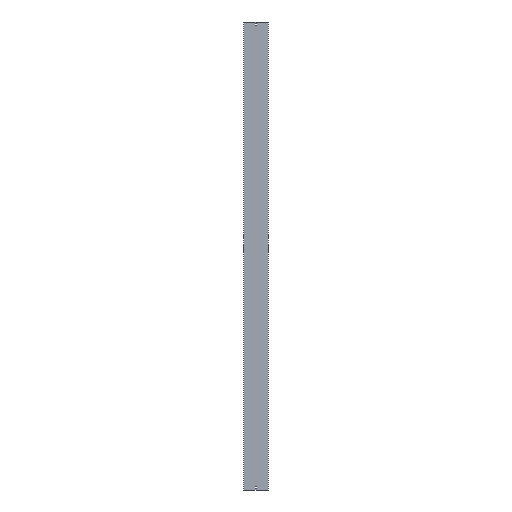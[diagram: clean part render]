
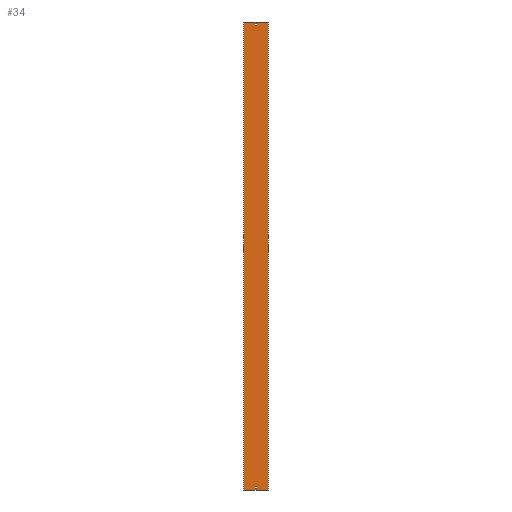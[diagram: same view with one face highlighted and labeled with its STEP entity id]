
A CAD part, front view. The second image highlights one B-rep face of the part: STEP entity #34.
In plain terms, the highlighted planar face has unit normal (0, -1, 0).
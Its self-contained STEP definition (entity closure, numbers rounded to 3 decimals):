
#7 = ORIENTED_EDGE ( 'NONE', *, *, #450, .T. ) ;
#13 = VERTEX_POINT ( 'NONE', #108 ) ;
#29 = EDGE_CURVE ( 'NONE', #234, #229, #375, .T. ) ;
#30 = DIRECTION ( 'NONE',  ( -1., 0., 0. ) ) ;
#32 = CARTESIAN_POINT ( 'NONE',  ( -77., -1.5, -1500. ) ) ;
#34 = ADVANCED_FACE ( 'NONE', ( #68, #255, #115 ), #250, .T. ) ;
#46 = AXIS2_PLACEMENT_3D ( 'NONE', #112, #336, #564 ) ;
#56 = EDGE_LOOP ( 'NONE', ( #449, #420, #409, #194 ) ) ;
#68 = FACE_BOUND ( 'NONE', #56, .T. ) ;
#69 = CARTESIAN_POINT ( 'NONE',  ( -3.25, -1.5, 1500. ) ) ;
#72 = LINE ( 'NONE', #359, #191 ) ;
#74 = CARTESIAN_POINT ( 'NONE',  ( 3.25, -1.5, 1488. ) ) ;
#78 = CARTESIAN_POINT ( 'NONE',  ( 3.25, -1.5, -1479. ) ) ;
#82 = VERTEX_POINT ( 'NONE', #185 ) ;
#86 = CARTESIAN_POINT ( 'NONE',  ( -78.5, -1.5, -1500. ) ) ;
#91 = EDGE_CURVE ( 'NONE', #229, #138, #313, .T. ) ;
#108 = CARTESIAN_POINT ( 'NONE',  ( -3.25, -1.5, -1479. ) ) ;
#112 = CARTESIAN_POINT ( 'NONE',  ( -78.5, -1.5, 1500. ) ) ;
#115 = FACE_BOUND ( 'NONE', #277, .T. ) ;
#119 = EDGE_CURVE ( 'NONE', #234, #580, #341, .T. ) ;
#123 = CARTESIAN_POINT ( 'NONE',  ( 77., -1.5, 1500. ) ) ;
#130 = VERTEX_POINT ( 'NONE', #74 ) ;
#138 = VERTEX_POINT ( 'NONE', #32 ) ;
#150 = VECTOR ( 'NONE', #311, 1000. ) ;
#154 = VECTOR ( 'NONE', #369, 1000. ) ;
#155 = VERTEX_POINT ( 'NONE', #526 ) ;
#158 = CARTESIAN_POINT ( 'NONE',  ( 77., -1.5, -1500. ) ) ;
#168 = LINE ( 'NONE', #215, #181 ) ;
#175 = EDGE_CURVE ( 'NONE', #155, #82, #288, .T. ) ;
#181 = VECTOR ( 'NONE', #389, 1000. ) ;
#185 = CARTESIAN_POINT ( 'NONE',  ( 3.25, -1.5, 1479. ) ) ;
#190 = ORIENTED_EDGE ( 'NONE', *, *, #193, .T. ) ;
#191 = VECTOR ( 'NONE', #583, 1000. ) ;
#192 = LINE ( 'NONE', #555, #280 ) ;
#193 = EDGE_CURVE ( 'NONE', #13, #423, #460, .T. ) ;
#194 = ORIENTED_EDGE ( 'NONE', *, *, #175, .F. ) ;
#215 = CARTESIAN_POINT ( 'NONE',  ( -3.25, -1.5, 1500. ) ) ;
#219 = ORIENTED_EDGE ( 'NONE', *, *, #119, .T. ) ;
#221 = EDGE_CURVE ( 'NONE', #130, #353, #364, .T. ) ;
#223 = CARTESIAN_POINT ( 'NONE',  ( -3.25, -1.5, 1488. ) ) ;
#227 = CARTESIAN_POINT ( 'NONE',  ( -3.25, -1.5, -1488. ) ) ;
#229 = VERTEX_POINT ( 'NONE', #158 ) ;
#232 = VERTEX_POINT ( 'NONE', #303 ) ;
#234 = VERTEX_POINT ( 'NONE', #123 ) ;
#250 = PLANE ( 'NONE',  #46 ) ;
#252 = VERTEX_POINT ( 'NONE', #227 ) ;
#255 = FACE_OUTER_BOUND ( 'NONE', #491, .T. ) ;
#261 = CARTESIAN_POINT ( 'NONE',  ( -78.5, -1.5, -1488. ) ) ;
#268 = ORIENTED_EDGE ( 'NONE', *, *, #91, .F. ) ;
#276 = DIRECTION ( 'NONE',  ( 1., 0., 0. ) ) ;
#277 = EDGE_LOOP ( 'NONE', ( #452, #405, #190, #579 ) ) ;
#280 = VECTOR ( 'NONE', #317, 1000. ) ;
#287 = VECTOR ( 'NONE', #518, 1000. ) ;
#288 = LINE ( 'NONE', #553, #561 ) ;
#292 = DIRECTION ( 'NONE',  ( -1., 0., 0. ) ) ;
#293 = VECTOR ( 'NONE', #30, 1000. ) ;
#296 = EDGE_CURVE ( 'NONE', #423, #232, #72, .T. ) ;
#303 = CARTESIAN_POINT ( 'NONE',  ( 3.25, -1.5, -1488. ) ) ;
#311 = DIRECTION ( 'NONE',  ( 0., 0., -1. ) ) ;
#312 = VECTOR ( 'NONE', #582, 1000. ) ;
#313 = LINE ( 'NONE', #86, #354 ) ;
#317 = DIRECTION ( 'NONE',  ( 0., 0., 1. ) ) ;
#327 = CARTESIAN_POINT ( 'NONE',  ( -77., -1.5, 1500. ) ) ;
#336 = DIRECTION ( 'NONE',  ( 0., -1., 0. ) ) ;
#337 = VECTOR ( 'NONE', #585, 1000. ) ;
#341 = LINE ( 'NONE', #395, #312 ) ;
#350 = CARTESIAN_POINT ( 'NONE',  ( -77., -1.5, 1500. ) ) ;
#353 = VERTEX_POINT ( 'NONE', #223 ) ;
#354 = VECTOR ( 'NONE', #440, 1000. ) ;
#359 = CARTESIAN_POINT ( 'NONE',  ( 3.25, -1.5, 1500. ) ) ;
#364 = LINE ( 'NONE', #546, #468 ) ;
#369 = DIRECTION ( 'NONE',  ( 1., 0., 0. ) ) ;
#375 = LINE ( 'NONE', #473, #287 ) ;
#382 = LINE ( 'NONE', #69, #337 ) ;
#385 = EDGE_CURVE ( 'NONE', #252, #13, #382, .T. ) ;
#389 = DIRECTION ( 'NONE',  ( 0., 0., -1. ) ) ;
#395 = CARTESIAN_POINT ( 'NONE',  ( -78.5, -1.5, 1500. ) ) ;
#405 = ORIENTED_EDGE ( 'NONE', *, *, #385, .T. ) ;
#409 = ORIENTED_EDGE ( 'NONE', *, *, #563, .F. ) ;
#420 = ORIENTED_EDGE ( 'NONE', *, *, #221, .F. ) ;
#423 = VERTEX_POINT ( 'NONE', #78 ) ;
#440 = DIRECTION ( 'NONE',  ( -1., 0., 0. ) ) ;
#449 = ORIENTED_EDGE ( 'NONE', *, *, #481, .F. ) ;
#450 = EDGE_CURVE ( 'NONE', #580, #138, #569, .T. ) ;
#452 = ORIENTED_EDGE ( 'NONE', *, *, #475, .T. ) ;
#454 = CARTESIAN_POINT ( 'NONE',  ( -78.5, -1.5, -1479. ) ) ;
#455 = ORIENTED_EDGE ( 'NONE', *, *, #29, .F. ) ;
#460 = LINE ( 'NONE', #454, #154 ) ;
#468 = VECTOR ( 'NONE', #292, 1000. ) ;
#473 = CARTESIAN_POINT ( 'NONE',  ( 77., -1.5, 1500. ) ) ;
#475 = EDGE_CURVE ( 'NONE', #232, #252, #478, .T. ) ;
#478 = LINE ( 'NONE', #261, #293 ) ;
#481 = EDGE_CURVE ( 'NONE', #353, #155, #168, .T. ) ;
#491 = EDGE_LOOP ( 'NONE', ( #268, #455, #219, #7 ) ) ;
#518 = DIRECTION ( 'NONE',  ( 0., 0., -1. ) ) ;
#526 = CARTESIAN_POINT ( 'NONE',  ( -3.25, -1.5, 1479. ) ) ;
#546 = CARTESIAN_POINT ( 'NONE',  ( -78.5, -1.5, 1488. ) ) ;
#553 = CARTESIAN_POINT ( 'NONE',  ( -78.5, -1.5, 1479. ) ) ;
#555 = CARTESIAN_POINT ( 'NONE',  ( 3.25, -1.5, 1500. ) ) ;
#561 = VECTOR ( 'NONE', #276, 1000. ) ;
#563 = EDGE_CURVE ( 'NONE', #82, #130, #192, .T. ) ;
#564 = DIRECTION ( 'NONE',  ( 0., 0., -1. ) ) ;
#569 = LINE ( 'NONE', #350, #150 ) ;
#579 = ORIENTED_EDGE ( 'NONE', *, *, #296, .T. ) ;
#580 = VERTEX_POINT ( 'NONE', #327 ) ;
#582 = DIRECTION ( 'NONE',  ( -1., 0., 0. ) ) ;
#583 = DIRECTION ( 'NONE',  ( 0., 0., -1. ) ) ;
#585 = DIRECTION ( 'NONE',  ( 0., 0., 1. ) ) ;
